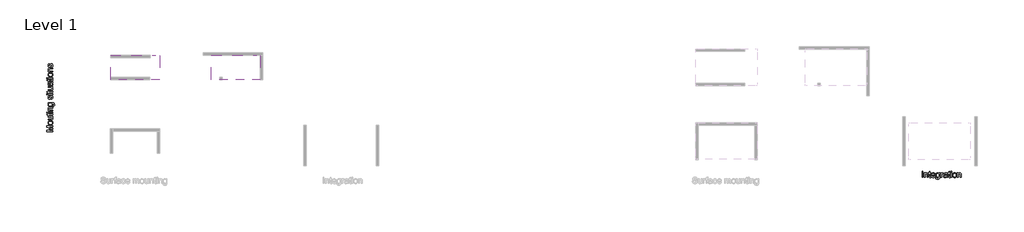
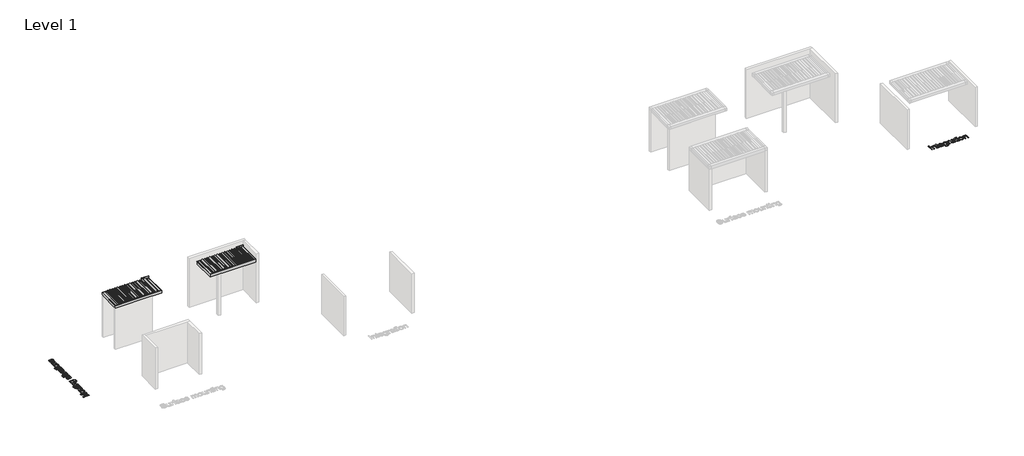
# One storey, part 6 of 12: 4 proxies.
"""IFC4 building model written with IfcOpenShell, lengths in millimetres."""

from ifc_helpers import new_model, si_unit, origin, origin_with_axes, place, context, project, spatial, polyline, outline, extrude, transform, mapped, element, save
from components import generic_models_456f33a1

model = new_model("IFC4")

# Units and contexts
model_context = context("Model", 3, world=origin())
ifc_project = project(units=[si_unit("LENGTHUNIT", "METRE", prefix="MILLI")], contexts=[model_context])

# Site, building, storey
site = spatial("IfcSite", under=ifc_project)
building = spatial("IfcBuilding", under=site)
storey = spatial("IfcBuildingStorey", under=building, Name="Level 1", Elevation=0.0)

# Proxies
placement = place(None, origin())
generic_models_shape = generic_models_456f33a1(model_context)
element("IfcBuildingElementProxy", 1, Name="Renson_Aero_Patio covers : Aero - Single", ObjectType="Renson_Aero_Patio covers : Aero - Single", at=placement, inside=storey, context=model_context, shape_type="MappedRepresentation", body=[
    mapped(generic_models_shape, transform((-9286.834943, 6301.5921629, 4000.0), x_axis=(1.0, 0.0, 0.0), y_axis=(0.0, 1.0, 0.0), z_axis=(0.0, 0.0, 1.0))),
])
element("IfcBuildingElementProxy", 2, Name="Renson_Aero_Patio covers : Aero - Single", ObjectType="Renson_Aero_Patio covers : Aero - Single", at=placement, inside=storey, context=model_context, shape_type="MappedRepresentation", body=[
    mapped(generic_models_shape, transform((-1076.4919488, 6301.5921629, 4000.0), x_axis=(1.0, 0.0, 0.0), y_axis=(0.0, 1.0, 0.0), z_axis=(0.0, 0.0, 1.0))),
])
element("IfcBuildingElementProxy", 3, Name="500mm Arial", ObjectType="500mm Arial", at=placement, inside=storey, context=model_context, shape_type="SweptSolid", body=[
    extrude(outline(polyline([(-15994.8554904, 1071.6143377), (-16497.1370411, 1071.6143377), (-16497.1370411, 1179.649017), (-16143.1119345, 1282.4107209), (-16069.1676534, 1303.13474), (-16149.243301, 1325.5755417), (-16497.1370411, 1426.6204631), (-16497.1370411, 1534.6551423), (-15994.8554904, 1534.6551423), (-15994.8554904, 1471.8699485), (-16434.3518473, 1471.8699485), (-15994.8554904, 1345.6864241), (-15994.8554904, 1260.5830559), (-16434.3518473, 1134.3995315), (-15994.8554904, 1134.3995315), (-15994.8554904, 1071.6143377)])), origin_with_axes(), (0.0, 0.0, 1.0), 5.0),
    extrude(outline(polyline([(-16179.2869973, 1620.9847838), (-16227.0580072, 1624.3800281), (-16268.2224696, 1634.5657608), (-16302.7803846, 1651.5419821), (-16330.731752, 1675.3086918), (-16348.5970214, 1699.2363499), (-16361.3579281, 1725.6472115), (-16369.0144721, 1754.5412765), (-16371.5666535, 1785.918545), (-16368.458817, 1820.5569341), (-16359.1353077, 1851.8767211), (-16343.5961255, 1879.8779058), (-16321.8412704, 1904.5604885), (-16294.6065065, 1924.7058598), (-16262.6275976, 1939.0954107), (-16225.9045439, 1947.7291413), (-16184.4373452, 1950.6070515), (-16121.0083579, 1945.5180172), (-16094.9730425, 1939.1567244), (-16072.723846, 1930.2509144), (-16053.5058439, 1918.9117184), (-16036.5641116, 1905.2502672), (-16021.8986491, 1889.2665609), (-16009.5094565, 1870.9605996), (-15992.63287, 1830.232997), (-15987.0073412, 1785.918545), (-15990.1036813, 1750.7743182), (-15999.3927017, 1719.1632913), (-16014.8744023, 1691.0854644), (-16036.5487832, 1666.5408376), (-16064.0479623, 1646.6100641), (-16097.0040577, 1632.3737973), (-16135.4170694, 1623.8320372), (-16179.2869973, 1620.9847838)]), holes=[polyline([(-16179.4096246, 1683.7699777), (-16148.9558932, 1685.586395), (-16122.5871848, 1691.0356471), (-16100.3034994, 1700.1177338), (-16082.1048369, 1712.8326553), (-16067.9682048, 1728.2990275), (-16057.8706105, 1745.6354665), (-16051.8120539, 1764.8419724), (-16049.792535, 1785.918545), (-16051.8235502, 1806.8878187), (-16057.9165957, 1826.0176825), (-16068.0716716, 1843.3081363), (-16082.2887779, 1858.7591801), (-16100.6675493, 1871.4741015), (-16123.3076204, 1880.5561883), (-16150.2089913, 1886.0054403), (-16181.371662, 1887.8218577), (-16210.8597031, 1885.993944), (-16236.5386328, 1880.510203), (-16258.408451, 1871.3706347), (-16276.4691577, 1858.5752391), (-16290.6057898, 1843.0667137), (-16300.7033841, 1825.7877562), (-16306.7619407, 1806.7383667), (-16308.7814596, 1785.918545), (-16306.769605, 1764.8419724), (-16300.734041, 1745.6354665), (-16290.6747677, 1728.2990275), (-16276.591785, 1712.8326553), (-16258.446772, 1700.1177338), (-16236.2014076, 1691.0356471), (-16209.8556918, 1685.586395), (-16179.4096246, 1683.7699777)])]), origin_with_axes(), (0.0, 0.0, 1.0), 5.0),
    extrude(outline(polyline([(-15994.8554904, 2256.6848715), (-16058.2538209, 2256.6848715), (-16027.083486, 2233.9681583), (-16004.8189611, 2207.5113115), (-15991.4602461, 2177.314331), (-15987.0073412, 2143.377217), (-15990.1343381, 2112.7970261), (-15999.515329, 2084.3321568), (-16013.6174722, 2060.4504839), (-16030.9079259, 2043.6198826), (-16051.9078565, 2032.2921829), (-16077.13843, 2024.9192145), (-16135.5090399, 2021.2403946), (-16363.7185042, 2021.2403946), (-16363.7185042, 2084.0255884), (-16165.0622268, 2084.0255884), (-16101.0507597, 2087.8270357), (-16079.6982755, 2096.9781003), (-16063.4654825, 2112.6590704), (-16053.2107719, 2133.8276135), (-16049.792535, 2159.4413974), (-16053.287414, 2186.5267093), (-16063.7720508, 2211.8645818), (-16080.2807554, 2232.7572134), (-16101.8478373, 2246.506803), (-16131.3856959, 2254.1403544), (-16171.8067301, 2256.6848715), (-16363.7185042, 2256.6848715), (-16363.7185042, 2319.4700653), (-15994.8554904, 2319.4700653), (-15994.8554904, 2256.6848715)])), origin_with_axes(), (0.0, 0.0, 1.0), 5.0),
    extrude(outline(polyline([(-16047.217361, 2539.2182438), (-15993.0160804, 2547.066393), (-15987.0073412, 2500.100125), (-15989.613172, 2469.9644582), (-15997.4306644, 2447.4929997), (-16009.4787997, 2431.6127602), (-16024.7765593, 2421.2507507), (-16051.0494652, 2415.5485798), (-16096.0230391, 2413.6478561), (-16300.9333104, 2413.6478561), (-16300.9333104, 2366.5589607), (-16363.7185042, 2366.5589607), (-16363.7185042, 2413.6478561), (-16453.3590837, 2413.6478561), (-16490.2699106, 2476.43305), (-16363.7185042, 2476.43305), (-16363.7185042, 2539.2182438), (-16300.9333104, 2539.2182438), (-16300.9333104, 2476.43305), (-16097.862449, 2476.43305), (-16065.4888335, 2479.7439879), (-16054.023178, 2490.4738794), (-16049.792535, 2511.8723488), (-16047.217361, 2539.2182438)])), origin_with_axes(), (0.0, 0.0, 1.0), 5.0),
    extrude(outline(polyline([(-16434.3518473, 2602.0034376), (-16497.1370411, 2602.0034376), (-16497.1370411, 2664.7886315), (-16434.3518473, 2664.7886315), (-16434.3518473, 2602.0034376)])), origin_with_axes(), (0.0, 0.0, 1.0), 5.0),
    extrude(outline(polyline([(-15994.8554904, 2602.0034376), (-16363.7185042, 2602.0034376), (-16363.7185042, 2664.7886315), (-15994.8554904, 2664.7886315), (-15994.8554904, 2602.0034376)])), origin_with_axes(), (0.0, 0.0, 1.0), 5.0),
    extrude(outline(polyline([(-15994.8554904, 2758.9664222), (-16363.7185042, 2758.9664222), (-16363.7185042, 2821.7516161), (-16312.2150249, 2821.7516161), (-16338.1813624, 2843.5639527), (-16356.7287463, 2869.7602165), (-16367.8571767, 2900.3404073), (-16371.5666535, 2935.3045253), (-16368.5776122, 2966.2525981), (-16359.6104886, 2994.5948402), (-16345.784257, 3018.2312584), (-16328.2178917, 3035.0618596), (-16306.9573781, 3046.4815299), (-16282.0487013, 3053.885155), (-16221.3481721, 3057.196093), (-15994.8554904, 3057.196093), (-15994.8554904, 2994.4108992), (-16212.8868862, 2994.4108992), (-16245.3524723, 2992.602146), (-16268.4370675, 2987.1758866), (-16284.9764288, 2977.1664306), (-16297.8063134, 2961.6080879), (-16306.0376731, 2941.6658181), (-16308.7814596, 2918.5045808), (-16307.2409538, 2899.4398628), (-16302.6194362, 2881.7317097), (-16294.9169069, 2865.3801215), (-16284.1333659, 2850.3850981), (-16269.0425399, 2837.8579497), (-16248.4181556, 2828.9099866), (-16222.2602129, 2823.5412087), (-16190.5687118, 2821.7516161), (-15994.8554904, 2821.7516161), (-15994.8554904, 2758.9664222)])), origin_with_axes(), (0.0, 0.0, 1.0), 5.0),
    extrude(outline(polyline([(-15963.4628935, 3127.8294361), (-15955.6147442, 3190.6146299), (-15935.9943712, 3197.5430742), (-15922.5053647, 3210.970767), (-15912.0207278, 3237.3663001), (-15908.5258489, 3271.9165509), (-15912.4805803, 3308.766064), (-15924.3447747, 3336.1732727), (-15943.3520111, 3355.1805091), (-15968.7358687, 3366.8301056), (-15995.7445386, 3370.2330141), (-16041.9443858, 3371.1220622), (-16021.342994, 3350.2294306), (-16006.6277142, 3326.9149091), (-15997.7985464, 3301.1784979), (-15994.8554904, 3273.0201968), (-15998.2813915, 3238.5964056), (-16008.5590947, 3208.2882941), (-16025.6886001, 3182.0958625), (-16049.6699077, 3160.0191107), (-16078.4413454, 3142.5025627), (-16109.9412412, 3129.9907428), (-16144.1695952, 3122.4836508), (-16181.1264073, 3119.9812868), (-16231.8174805, 3124.4725129), (-16278.431195, 3137.9461909), (-16317.9325242, 3159.9271402), (-16333.8779095, 3173.9296486), (-16347.2864418, 3189.9401796), (-16357.9090344, 3207.7019822), (-16365.4966005, 3226.9583054), (-16370.0491402, 3247.7091492), (-16371.5666535, 3269.9545136), (-16368.1330882, 3299.3160953), (-16357.8323923, 3325.9645473), (-16340.6645659, 3349.8998696), (-16316.6296088, 3371.1220622), (-16363.7185042, 3371.1220622), (-16363.7185042, 3433.9072561), (-16045.2553237, 3433.9072561), (-15971.7249099, 3429.6152995), (-15944.3751829, 3424.2503537), (-15923.3024423, 3416.7394296), (-15891.1894098, 3394.559211), (-15866.5873014, 3362.354208), (-15857.4668936, 3342.6686892), (-15850.9523166, 3320.8295278), (-15845.740655, 3270.6902775), (-15847.5762329, 3239.9299778), (-15853.0829665, 3212.2736824), (-15862.2608559, 3187.7213913), (-15875.109901, 3166.2731046), (-15891.6454302, 3148.9481619), (-15911.8827721, 3136.7659029), (-15935.8219265, 3129.7263276), (-15963.4628935, 3127.8294361)]), holes=[polyline([(-16185.4183639, 3182.7664807), (-16154.3744885, 3184.4411102), (-16127.8295032, 3189.4649987), (-16105.7834083, 3197.8381462), (-16088.2362035, 3209.5605527), (-16074.8506638, 3223.8121479), (-16065.2895641, 3239.7728615), (-16059.5529042, 3257.4426936), (-16057.6406842, 3276.8216441), (-16059.5414079, 3296.0089894), (-16065.2435788, 3313.5945152), (-16074.747197, 3329.5782215), (-16088.0522625, 3343.9601082), (-16105.4270226, 3355.8434631), (-16127.1397245, 3364.3315737), (-16153.1903683, 3369.4244401), (-16183.5789539, 3371.1220622), (-16212.6991131, 3369.3746227), (-16238.0101608, 3364.1323043), (-16259.512097, 3355.3951069), (-16277.2049217, 3343.1630306), (-16291.019657, 3328.4707434), (-16300.8873251, 3312.3529135), (-16306.807926, 3294.8095408), (-16308.7814596, 3275.8406255), (-16306.8385828, 3257.1897747), (-16301.0099525, 3239.9874594), (-16291.2955685, 3224.2336793), (-16277.695431, 3209.9284347), (-16260.2708536, 3198.0450798), (-16239.0831499, 3189.5569692), (-16214.13232, 3184.4641028), (-16185.4183639, 3182.7664807)])]), origin_with_axes(), (0.0, 0.0, 1.0), 5.0),
    extrude(outline(polyline([(-16104.7295796, 3700.7443299), (-16112.5777289, 3763.5295237), (-16085.7223432, 3773.4316808), (-16065.9793428, 3792.5922014), (-16053.839237, 3821.1337128), (-16049.792535, 3859.1788425), (-16053.5020118, 3896.7641197), (-16064.6304421, 3923.1903097), (-16080.7559363, 3938.8252944), (-16099.4566044, 3944.036956), (-16115.4594711, 3938.7946376), (-16127.6608907, 3923.0676823), (-16145.5644811, 3858.4430785), (-16162.1344993, 3801.1454578), (-16176.2826277, 3763.8974057), (-16191.7183431, 3739.9697476), (-16212.1511222, 3722.6333086), (-16236.2780497, 3712.1026865), (-16262.7962102, 3708.5924791), (-16287.1224071, 3711.4129078), (-16309.5785373, 3719.8741937), (-16329.2755524, 3733.209916), (-16345.3244045, 3750.6536539), (-16355.4258309, 3767.9900929), (-16363.9024452, 3790.5688504), (-16369.6506014, 3816.6731436), (-16371.5666535, 3844.58619), (-16368.4856417, 3885.4517483), (-16359.2426066, 3920.9830177), (-16344.7419246, 3949.555186), (-16325.8879724, 3969.543441), (-16301.285864, 3982.7871929), (-16269.5407135, 3991.1258514), (-16261.6925642, 3928.3406576), (-16281.4508931, 3920.4158663), (-16296.3347854, 3904.7348962), (-16305.6697911, 3881.1444633), (-16308.7814596, 3849.4912833), (-16305.8077468, 3813.4388478), (-16296.8866084, 3789.4038907), (-16284.0107386, 3775.8842274), (-16269.1728315, 3771.377673), (-16259.5159291, 3773.2477398), (-16250.901359, 3778.8579402), (-16243.206494, 3788.4535289), (-16237.0444706, 3802.2797606), (-16223.6780914, 3856.3584139), (-16194.1249045, 3948.5128537), (-16179.9921045, 3972.854379), (-16160.6476429, 3991.3097924), (-16136.030206, 4002.9440605), (-16106.0784803, 4006.8221499), (-16075.115079, 4002.2696102), (-16045.9910877, 3988.6119911), (-16020.9904405, 3966.3704588), (-16002.3970713, 3936.0661795), (-15990.8547737, 3899.461921), (-15987.0073412, 3858.3204512), (-15988.8620796, 3824.5289571), (-15994.4262947, 3795.0140912), (-16003.6999867, 3769.7758535), (-16016.6831554, 3748.8142439), (-16033.3144873, 3731.6924027), (-16053.5326686, 3717.97347), (-16077.3376994, 3707.6574457), (-16104.7295796, 3700.7443299)])), origin_with_axes(), (0.0, 0.0, 1.0), 5.0),
    extrude(outline(polyline([(-16434.3518473, 4077.455493), (-16497.1370411, 4077.455493), (-16497.1370411, 4140.2406868), (-16434.3518473, 4140.2406868), (-16434.3518473, 4077.455493)])), origin_with_axes(), (0.0, 0.0, 1.0), 5.0),
    extrude(outline(polyline([(-15994.8554904, 4077.455493), (-16363.7185042, 4077.455493), (-16363.7185042, 4140.2406868), (-15994.8554904, 4140.2406868), (-15994.8554904, 4077.455493)])), origin_with_axes(), (0.0, 0.0, 1.0), 5.0),
    extrude(outline(polyline([(-16047.217361, 4367.8370145), (-15993.0160804, 4375.6851637), (-15987.0073412, 4328.7188957), (-15989.613172, 4298.5832289), (-15997.4306644, 4276.1117704), (-16009.4787997, 4260.2315309), (-16024.7765593, 4249.8695214), (-16051.0494652, 4244.1673504), (-16096.0230391, 4242.2666268), (-16300.9333104, 4242.2666268), (-16300.9333104, 4195.1777314), (-16363.7185042, 4195.1777314), (-16363.7185042, 4242.2666268), (-16453.3590837, 4242.2666268), (-16490.2699106, 4305.0518206), (-16363.7185042, 4305.0518206), (-16363.7185042, 4367.8370145), (-16300.9333104, 4367.8370145), (-16300.9333104, 4305.0518206), (-16097.862449, 4305.0518206), (-16065.4888335, 4308.3627586), (-16054.023178, 4319.0926501), (-16049.792535, 4340.4911195), (-16047.217361, 4367.8370145)])), origin_with_axes(), (0.0, 0.0, 1.0), 5.0),
    extrude(outline(polyline([(-15994.8554904, 4666.0666852), (-16058.2538209, 4666.0666852), (-16027.083486, 4643.349972), (-16004.8189611, 4616.8931252), (-15991.4602461, 4586.6961448), (-15987.0073412, 4552.7590307), (-15990.1343381, 4522.1788399), (-15999.515329, 4493.7139705), (-16013.6174722, 4469.8322977), (-16030.9079259, 4453.0016964), (-16051.9078565, 4441.6739966), (-16077.13843, 4434.3010283), (-16135.5090399, 4430.6222083), (-16363.7185042, 4430.6222083), (-16363.7185042, 4493.4074022), (-16165.0622268, 4493.4074022), (-16101.0507597, 4497.2088495), (-16079.6982755, 4506.3599141), (-16063.4654825, 4522.0408841), (-16053.2107719, 4543.2094273), (-16049.792535, 4568.8232112), (-16053.287414, 4595.9085231), (-16063.7720508, 4621.2463955), (-16080.2807554, 4642.1390271), (-16101.8478373, 4655.8886167), (-16131.3856959, 4663.5221681), (-16171.8067301, 4666.0666852), (-16363.7185042, 4666.0666852), (-16363.7185042, 4728.8518791), (-15994.8554904, 4728.8518791), (-15994.8554904, 4666.0666852)])), origin_with_axes(), (0.0, 0.0, 1.0), 5.0),
    extrude(outline(polyline([(-16041.9443858, 5050.6259975), (-16016.2233029, 5020.6282865), (-15999.3927017, 4989.7415273), (-15990.1036813, 4957.2606128), (-15987.0073412, 4922.4804359), (-15988.8697438, 4894.5252364), (-15994.4569516, 4870.0112663), (-16003.7689646, 4848.9385258), (-16016.8057828, 4831.3070147), (-16032.7396717, 4817.3849805), (-16050.7428968, 4807.4406703), (-16070.8154582, 4801.4740842), (-16092.9573558, 4799.4852222), (-16118.9850069, 4802.4895918), (-16142.6214251, 4811.5027007), (-16162.8549349, 4825.4055744), (-16178.6738607, 4843.0792386), (-16190.6300255, 4863.8492429), (-16199.2752524, 4887.041137), (-16208.7175569, 4941.365045), (-16218.6503708, 5005.5604531), (-16230.2999673, 5050.2581155), (-16244.2794831, 5050.6259975), (-16272.2998284, 5046.3033841), (-16290.6326145, 5033.3355438), (-16298.5727342, 5020.2604045), (-16304.2442483, 5004.3341798), (-16308.7814596, 4963.928474), (-16305.7617616, 4926.5271378), (-16296.7026674, 4900.4075162), (-16279.9487082, 4882.5958962), (-16253.844415, 4870.1185652), (-16261.6925642, 4807.3333714), (-16296.0282171, 4818.2318755), (-16323.0062301, 4834.4953254), (-16343.6382787, 4857.6412342), (-16358.9360383, 4889.1871153), (-16368.4089997, 4927.7687396), (-16371.5666535, 4972.0218779), (-16368.7768817, 5014.4662631), (-16360.4075663, 5048.1121372), (-16347.8229364, 5073.4806665), (-16332.387221, 5091.093017), (-16313.3033425, 5102.7732704), (-16289.7742232, 5110.3455081), (-16234.8371786, 5113.4111914), (-16156.7235683, 5113.4111914), (-16047.6465567, 5116.599502), (-16020.6838721, 5121.3206543), (-15994.8554904, 5129.1074898), (-15994.8554904, 5066.322296), (-16016.6831554, 5056.2668548), (-16041.9443858, 5050.6259975)]), holes=[polyline([(-16167.5147735, 5050.6259975), (-16157.0607934, 5008.4421954), (-16148.2622824, 4949.3358215), (-16138.0842139, 4895.3184819), (-16131.1251128, 4881.262324), (-16121.5295241, 4870.8543292), (-16110.0332117, 4864.4163943), (-16097.3719397, 4862.270416), (-16078.7019285, 4866.945583), (-16063.4041688, 4880.9710841), (-16053.1954435, 4904.0403509), (-16049.792535, 4935.846815), (-16053.547997, 4969.5693313), (-16064.8143831, 4999.3677729), (-16081.4150582, 5023.5253572), (-16101.173387, 5040.3253017), (-16121.5295241, 5047.7749121), (-16149.7338104, 5050.2581155), (-16167.5147735, 5050.6259975)])]), origin_with_axes(), (0.0, 0.0, 1.0), 5.0),
    extrude(outline(polyline([(-16047.217361, 5333.1593698), (-15993.0160804, 5341.0075191), (-15987.0073412, 5294.041251), (-15989.613172, 5263.9055842), (-15997.4306644, 5241.4341257), (-16009.4787997, 5225.5538862), (-16024.7765593, 5215.1918767), (-16051.0494652, 5209.4897058), (-16096.0230391, 5207.5889821), (-16300.9333104, 5207.5889821), (-16300.9333104, 5160.5000868), (-16363.7185042, 5160.5000868), (-16363.7185042, 5207.5889821), (-16453.3590837, 5207.5889821), (-16490.2699106, 5270.374176), (-16363.7185042, 5270.374176), (-16363.7185042, 5333.1593698), (-16300.9333104, 5333.1593698), (-16300.9333104, 5270.374176), (-16097.862449, 5270.374176), (-16065.4888335, 5273.6851139), (-16054.023178, 5284.4150055), (-16049.792535, 5305.8134749), (-16047.217361, 5333.1593698)])), origin_with_axes(), (0.0, 0.0, 1.0), 5.0),
    extrude(outline(polyline([(-15994.8554904, 5395.9445637), (-16363.7185042, 5395.9445637), (-16363.7185042, 5458.7297575), (-15994.8554904, 5458.7297575), (-15994.8554904, 5395.9445637)])), origin_with_axes(), (0.0, 0.0, 1.0), 5.0),
    extrude(outline(polyline([(-16434.3518473, 5395.9445637), (-16497.1370411, 5395.9445637), (-16497.1370411, 5458.7297575), (-16434.3518473, 5458.7297575), (-16434.3518473, 5395.9445637)])), origin_with_axes(), (0.0, 0.0, 1.0), 5.0),
    extrude(outline(polyline([(-16179.2869973, 5537.2112498), (-16227.0580072, 5540.6064941), (-16268.2224696, 5550.7922268), (-16302.7803846, 5567.768448), (-16330.731752, 5591.5351578), (-16348.5970214, 5615.4628159), (-16361.3579281, 5641.8736775), (-16369.0144721, 5670.7677425), (-16371.5666535, 5702.145011), (-16368.458817, 5736.7834001), (-16359.1353077, 5768.103187), (-16343.5961255, 5796.1043718), (-16321.8412704, 5820.7869544), (-16294.6065065, 5840.9323258), (-16262.6275976, 5855.3218767), (-16225.9045439, 5863.9556073), (-16184.4373452, 5866.8335175), (-16121.0083579, 5861.7444832), (-16094.9730425, 5855.3831904), (-16072.723846, 5846.4773804), (-16053.5058439, 5835.1381844), (-16036.5641116, 5821.4767332), (-16021.8986491, 5805.4930269), (-16009.5094565, 5787.1870655), (-15992.63287, 5746.459463), (-15987.0073412, 5702.145011), (-15990.1036813, 5667.0007841), (-15999.3927017, 5635.3897573), (-16014.8744023, 5607.3119304), (-16036.5487832, 5582.7673036), (-16064.0479623, 5562.8365301), (-16097.0040577, 5548.6002633), (-16135.4170694, 5540.0585032), (-16179.2869973, 5537.2112498)]), holes=[polyline([(-16179.4096246, 5599.9964437), (-16148.9558932, 5601.812861), (-16122.5871848, 5607.2621131), (-16100.3034994, 5616.3441998), (-16082.1048369, 5629.0591213), (-16067.9682048, 5644.5254935), (-16057.8706105, 5661.8619325), (-16051.8120539, 5681.0684384), (-16049.792535, 5702.145011), (-16051.8235502, 5723.1142847), (-16057.9165957, 5742.2441485), (-16068.0716716, 5759.5346022), (-16082.2887779, 5774.985646), (-16100.6675493, 5787.7005675), (-16123.3076204, 5796.7826543), (-16150.2089913, 5802.2319063), (-16181.371662, 5804.0483237), (-16210.8597031, 5802.22041), (-16236.5386328, 5796.736669), (-16258.408451, 5787.5971007), (-16276.4691577, 5774.801705), (-16290.6057898, 5759.2931797), (-16300.7033841, 5742.0142222), (-16306.7619407, 5722.9648327), (-16308.7814596, 5702.145011), (-16306.769605, 5681.0684384), (-16300.734041, 5661.8619325), (-16290.6747677, 5644.5254935), (-16276.591785, 5629.0591213), (-16258.446772, 5616.3441998), (-16236.2014076, 5607.2621131), (-16209.8556918, 5601.812861), (-16179.4096246, 5599.9964437)])]), origin_with_axes(), (0.0, 0.0, 1.0), 5.0),
    extrude(outline(polyline([(-15994.8554904, 5937.4668606), (-16363.7185042, 5937.4668606), (-16363.7185042, 6000.2520544), (-16312.2150249, 6000.2520544), (-16338.1813624, 6022.0643911), (-16356.7287463, 6048.2606548), (-16367.8571767, 6078.8408456), (-16371.5666535, 6113.8049636), (-16368.5776122, 6144.7530364), (-16359.6104886, 6173.0952785), (-16345.784257, 6196.7316967), (-16328.2178917, 6213.562298), (-16306.9573781, 6224.9819682), (-16282.0487013, 6232.3855934), (-16221.3481721, 6235.6965313), (-15994.8554904, 6235.6965313), (-15994.8554904, 6172.9113375), (-16212.8868862, 6172.9113375), (-16245.3524723, 6171.1025843), (-16268.4370675, 6165.6763249), (-16284.9764288, 6155.666869), (-16297.8063134, 6140.1085263), (-16306.0376731, 6120.1662564), (-16308.7814596, 6097.0050192), (-16307.2409538, 6077.9403012), (-16302.6194362, 6060.2321481), (-16294.9169069, 6043.8805598), (-16284.1333659, 6028.8855364), (-16269.0425399, 6016.358388), (-16248.4181556, 6007.4104249), (-16222.2602129, 6002.041647), (-16190.5687118, 6000.2520544), (-15994.8554904, 6000.2520544), (-15994.8554904, 5937.4668606)])), origin_with_axes(), (0.0, 0.0, 1.0), 5.0),
    extrude(outline(polyline([(-16104.7295796, 6298.4817252), (-16112.5777289, 6361.266919), (-16085.7223432, 6371.1690761), (-16065.9793428, 6390.3295966), (-16053.839237, 6418.8711081), (-16049.792535, 6456.9162378), (-16053.5020118, 6494.5015149), (-16064.6304421, 6520.9277049), (-16080.7559363, 6536.5626897), (-16099.4566044, 6541.7743513), (-16115.4594711, 6536.5320329), (-16127.6608907, 6520.8050776), (-16145.5644811, 6456.1804738), (-16162.1344993, 6398.882853), (-16176.2826277, 6361.634801), (-16191.7183431, 6337.7071429), (-16212.1511222, 6320.3707039), (-16236.2780497, 6309.8400818), (-16262.7962102, 6306.3298744), (-16287.1224071, 6309.150303), (-16309.5785373, 6317.6115889), (-16329.2755524, 6330.9473113), (-16345.3244045, 6348.3910492), (-16355.4258309, 6365.7274882), (-16363.9024452, 6388.3062457), (-16369.6506014, 6414.4105389), (-16371.5666535, 6442.3235853), (-16368.4856417, 6483.1891436), (-16359.2426066, 6518.720413), (-16344.7419246, 6547.2925812), (-16325.8879724, 6567.2808363), (-16301.285864, 6580.5245881), (-16269.5407135, 6588.8632467), (-16261.6925642, 6526.0780529), (-16281.4508931, 6518.1532615), (-16296.3347854, 6502.4722915), (-16305.6697911, 6478.8818586), (-16308.7814596, 6447.2286786), (-16305.8077468, 6411.176243), (-16296.8866084, 6387.141286), (-16284.0107386, 6373.6216227), (-16269.1728315, 6369.1150683), (-16259.5159291, 6370.9851351), (-16250.901359, 6376.5953355), (-16243.206494, 6386.1909242), (-16237.0444706, 6400.0171558), (-16223.6780914, 6454.0958091), (-16194.1249045, 6546.2502489), (-16179.9921045, 6570.5917743), (-16160.6476429, 6589.0471877), (-16136.030206, 6600.6814558), (-16106.0784803, 6604.5595452), (-16075.115079, 6600.0070055), (-16045.9910877, 6586.3493864), (-16020.9904405, 6564.1078541), (-16002.3970713, 6533.8035748), (-15990.8547737, 6497.1993162), (-15987.0073412, 6456.0578464), (-15988.8620796, 6422.2663523), (-15994.4262947, 6392.7514864), (-16003.6999867, 6367.5132487), (-16016.6831554, 6346.5516392), (-16033.3144873, 6329.429798), (-16053.5326686, 6315.7108653), (-16077.3376994, 6305.394841), (-16104.7295796, 6298.4817252)])), origin_with_axes(), (0.0, 0.0, 1.0), 5.0),
])
element("IfcBuildingElementProxy", 4, Name="500mm Arial", ObjectType="500mm Arial", at=placement, inside=storey, context=model_context, shape_type="SweptSolid", body=[
    extrude(outline(polyline([(54817.8536281, -2664.1927147), (54817.8536281, -2161.911164), (54880.638822, -2161.911164), (54880.638822, -2664.1927147), (54817.8536281, -2664.1927147)])), origin_with_axes(), (0.0, 0.0, 1.0), 5.0),
    extrude(outline(polyline([(54998.3610604, -2664.1927147), (54998.3610604, -2295.3297009), (55061.1462543, -2295.3297009), (55061.1462543, -2346.8331802), (55082.9585909, -2320.8668427), (55109.1548546, -2302.3194588), (55139.7350455, -2291.1910284), (55174.6991634, -2287.4815516), (55205.6472363, -2290.4705929), (55233.9894783, -2299.4377165), (55257.6258965, -2313.2639481), (55274.4564978, -2330.8303134), (55285.8761681, -2352.0908271), (55293.2797932, -2376.9995038), (55296.5907312, -2437.700033), (55296.5907312, -2664.1927147), (55233.8055373, -2664.1927147), (55233.8055373, -2446.1613189), (55231.9967842, -2413.6957328), (55226.5705248, -2390.6111376), (55216.5610688, -2374.0717763), (55201.0027261, -2361.2418917), (55181.0604563, -2353.010532), (55157.899219, -2350.2667455), (55138.834501, -2351.8072513), (55121.1263479, -2356.4287689), (55104.7747596, -2364.1312982), (55089.7797362, -2374.9148392), (55077.2525879, -2390.0056652), (55068.3046248, -2410.6300495), (55062.9358469, -2436.7879922), (55061.1462543, -2468.4794933), (55061.1462543, -2664.1927147), (54998.3610604, -2664.1927147)])), origin_with_axes(), (0.0, 0.0, 1.0), 5.0),
    extrude(outline(polyline([(55516.3389096, -2611.8308441), (55524.1870589, -2666.0321247), (55477.2207908, -2672.0408639), (55447.085124, -2669.4350331), (55424.6136655, -2661.6175407), (55408.733426, -2649.5694054), (55398.3714165, -2634.2716458), (55392.6692456, -2607.9987399), (55390.7685219, -2563.025166), (55390.7685219, -2358.1148947), (55343.6796266, -2358.1148947), (55343.6796266, -2295.3297009), (55390.7685219, -2295.3297009), (55390.7685219, -2205.6891214), (55453.5537158, -2168.7782945), (55453.5537158, -2295.3297009), (55516.3389096, -2295.3297009), (55516.3389096, -2358.1148947), (55453.5537158, -2358.1148947), (55453.5537158, -2561.1857561), (55456.8646537, -2593.5593716), (55467.5945453, -2605.0250272), (55488.9930147, -2609.2556701), (55516.3389096, -2611.8308441)])), origin_with_axes(), (0.0, 0.0, 1.0), 5.0),
    extrude(outline(polyline([(55837.3772641, -2554.3186255), (55898.9361846, -2562.1667747), (55889.4977122, -2586.8225326), (55876.755966, -2608.5505629), (55860.7109461, -2627.3508657), (55841.3626524, -2643.223441), (55818.9103544, -2655.8310635), (55793.5533214, -2664.8365082), (55765.2915536, -2670.239775), (55734.1250508, -2672.0408639), (55695.1678803, -2668.9330275), (55660.4566812, -2659.6095182), (55629.9914535, -2644.070336), (55603.7721972, -2622.3154809), (55582.6879603, -2594.9504254), (55567.6277911, -2562.580642), (55558.5916896, -2525.2061305), (55555.5796558, -2482.8268911), (55558.6223465, -2439.0106126), (55567.7504185, -2400.3906673), (55582.9638718, -2366.9670552), (55604.2627065, -2338.7397763), (55630.412985, -2316.314303), (55660.1807697, -2300.2961078), (55693.5660608, -2290.6851907), (55730.5688582, -2287.4815516), (55766.3798711, -2290.6775265), (55798.764983, -2300.265451), (55827.7241938, -2316.2453251), (55853.2575035, -2338.617149), (55874.1003178, -2366.7831142), (55888.9880423, -2400.1454127), (55897.920677, -2438.7040443), (55900.8982219, -2482.4590091), (55900.5303399, -2499.3815809), (55618.3648496, -2499.3815809), (55622.0015164, -2524.4358776), (55629.2326969, -2546.3785058), (55640.058391, -2565.2094654), (55654.4785988, -2580.9287565), (55671.6962426, -2593.3217812), (55690.9142448, -2602.1739417), (55712.1326053, -2607.485238), (55735.3513241, -2609.2556701), (55768.767272, -2605.975389), (55796.9102446, -2596.1345456), (55819.780242, -2579.1200033), (55837.3772641, -2554.3186255)]), holes=[polyline([(55618.3648496, -2436.596387), (55838.1130281, -2436.596387), (55829.6210854, -2403.4256938), (55812.9744251, -2379.6973051), (55795.8525839, -2366.8214353), (55776.3701666, -2357.6243854), (55754.5271731, -2352.1061555), (55730.3236035, -2350.2667455), (55688.0018456, -2356.137529), (55669.5885854, -2363.4760084), (55653.0070708, -2373.7498795), (55639.0927008, -2386.4839615), (55628.6808739, -2401.2030734), (55621.7715902, -2417.9072153), (55618.3648496, -2436.596387)])]), origin_with_axes(), (0.0, 0.0, 1.0), 5.0),
    extrude(outline(polyline([(55947.9871173, -2695.5853116), (56010.7723111, -2703.4334609), (56017.7007554, -2723.0538339), (56031.1284482, -2736.5428404), (56057.5239814, -2747.0274773), (56092.0742321, -2750.5223562), (56128.9237453, -2746.5676248), (56156.3309539, -2734.7034305), (56175.3381903, -2715.696194), (56186.9877868, -2690.3123364), (56190.3906953, -2663.3036666), (56191.2797434, -2617.1038193), (56170.3871118, -2637.7052111), (56147.0725904, -2652.4204909), (56121.3361791, -2661.2496587), (56093.1778781, -2664.1927147), (56058.7540868, -2660.7668136), (56028.4459753, -2650.4891104), (56002.2535437, -2633.359605), (55980.1767919, -2609.3782974), (55962.660244, -2580.6068597), (55950.148424, -2549.1069639), (55942.6413321, -2514.8786099), (55940.1389681, -2477.9217978), (55944.6301941, -2427.2307246), (55958.1038722, -2380.6170101), (55980.0848214, -2341.1156809), (55994.0873298, -2325.1702956), (56010.0978608, -2311.7617633), (56027.8596634, -2301.1391707), (56047.1159866, -2293.5516046), (56067.8668304, -2288.9990649), (56090.1121948, -2287.4815516), (56119.4737765, -2290.9151169), (56146.1222285, -2301.2158128), (56170.0575509, -2318.3836392), (56191.2797434, -2342.4185963), (56191.2797434, -2295.3297009), (56254.0649373, -2295.3297009), (56254.0649373, -2613.7928814), (56249.7729807, -2687.3232952), (56244.4080349, -2714.6730222), (56236.8971109, -2735.7457628), (56214.7168922, -2767.8587953), (56182.5118892, -2792.4609037), (56162.8263704, -2801.5813115), (56140.987209, -2808.0958885), (56090.8479588, -2813.3075501), (56060.087659, -2811.4719722), (56032.4313636, -2805.9652386), (56007.8790725, -2796.7873492), (55986.4307858, -2783.9383041), (55969.1058431, -2767.4027749), (55956.9235841, -2747.165433), (55949.8840088, -2723.2262786), (55947.9871173, -2695.5853116)]), holes=[polyline([(56002.9241619, -2473.6298412), (56004.5987914, -2504.6737167), (56009.6226799, -2531.2187019), (56017.9958274, -2553.2647969), (56029.7182339, -2570.8120016), (56043.9698291, -2584.1975413), (56059.9305428, -2593.7586411), (56077.6003748, -2599.4953009), (56096.9793254, -2601.4075209), (56116.1666707, -2599.5067972), (56133.7521965, -2593.8046263), (56149.7359027, -2584.3010081), (56164.1177895, -2570.9959426), (56176.0011443, -2553.6211825), (56184.489255, -2531.9084806), (56189.5821213, -2505.8578368), (56191.2797434, -2475.4692512), (56189.532304, -2446.349092), (56184.2899855, -2421.0380443), (56175.5527882, -2399.5361081), (56163.3207118, -2381.8432834), (56148.6284246, -2368.0285481), (56132.5105947, -2358.16088), (56114.9672221, -2352.2402791), (56095.9983067, -2350.2667455), (56077.347456, -2352.2096223), (56060.1451406, -2358.0382526), (56044.3913606, -2367.7526366), (56030.0861159, -2381.3527741), (56018.202761, -2398.7773515), (56009.7146504, -2419.9650552), (56004.621784, -2444.9158851), (56002.9241619, -2473.6298412)])]), origin_with_axes(), (0.0, 0.0, 1.0), 5.0),
    extrude(outline(polyline([(56348.2427281, -2664.1927147), (56348.2427281, -2295.3297009), (56403.1797727, -2295.3297009), (56403.1797727, -2349.8988635), (56423.4745961, -2318.2610119), (56442.1752642, -2299.6216575), (56460.9372459, -2290.5165781), (56481.4160103, -2287.4815516), (56512.6859799, -2292.3253313), (56544.4464588, -2306.8566701), (56523.4771851, -2363.1426153), (56501.4042654, -2353.485713), (56479.3313457, -2350.2667455), (56460.5846923, -2353.3630856), (56443.8307331, -2362.652106), (56430.2957414, -2377.4286995), (56421.2059904, -2396.9877589), (56413.572439, -2432.0591758), (56411.0279219, -2470.3189033), (56411.0279219, -2664.1927147), (56348.2427281, -2664.1927147)])), origin_with_axes(), (0.0, 0.0, 1.0), 5.0),
    extrude(outline(polyline([(56819.1316819, -2617.1038193), (56789.1339709, -2642.8249022), (56758.2472117, -2659.6555034), (56725.7662972, -2668.9445238), (56690.9861202, -2672.0408639), (56663.0309207, -2670.1784613), (56638.5169507, -2664.5912535), (56617.4442101, -2655.2792405), (56599.8126991, -2642.2424223), (56585.8906648, -2626.3085334), (56575.9463547, -2608.3053083), (56569.9797685, -2588.2327469), (56567.9909065, -2566.0908493), (56570.9952761, -2540.0631982), (56580.008385, -2516.42678), (56593.9112588, -2496.1932702), (56611.5849229, -2480.3743445), (56632.3549272, -2468.4181796), (56655.5468214, -2459.7729527), (56709.8707293, -2450.3306482), (56774.0661375, -2440.3978343), (56818.7637999, -2428.7482378), (56819.1316819, -2414.768722), (56814.8090684, -2386.7483767), (56801.8412281, -2368.4155906), (56788.7660889, -2360.4754709), (56772.8398642, -2354.8039568), (56732.4341584, -2350.2667455), (56695.0328222, -2353.2864435), (56668.9132005, -2362.3455377), (56651.1015806, -2379.0994969), (56638.6242496, -2405.2037901), (56575.8390557, -2397.3556409), (56586.7375598, -2363.019988), (56603.0010097, -2336.041975), (56626.1469186, -2315.4099265), (56657.6927997, -2300.1121668), (56696.2744239, -2290.6392054), (56740.5275622, -2287.4815516), (56782.9719474, -2290.2713234), (56816.6178216, -2298.6406388), (56841.9863508, -2311.2252688), (56859.5987014, -2326.6609841), (56871.2789547, -2345.7448626), (56878.8511924, -2369.2739819), (56881.9168757, -2424.2110265), (56881.9168757, -2502.3246368), (56885.1051864, -2611.4016484), (56889.8263386, -2638.364333), (56897.6131742, -2664.1927147), (56834.8279803, -2664.1927147), (56824.7725391, -2642.3650497), (56819.1316819, -2617.1038193)]), holes=[polyline([(56819.1316819, -2491.5334316), (56776.9478798, -2501.9874117), (56717.8415059, -2510.7859227), (56663.8241663, -2520.9639913), (56649.7680084, -2527.9230923), (56639.3600136, -2537.518681), (56632.9220787, -2549.0149934), (56630.7761004, -2561.6762654), (56635.4512674, -2580.3462766), (56649.4767684, -2595.6440363), (56672.5460352, -2605.8527616), (56704.3524994, -2609.2556701), (56738.0750156, -2605.5002081), (56767.8734572, -2594.233822), (56792.0310416, -2577.6331469), (56808.830986, -2557.8748181), (56816.2805964, -2537.518681), (56818.7637999, -2509.3143947), (56819.1316819, -2491.5334316)])]), origin_with_axes(), (0.0, 0.0, 1.0), 5.0),
    extrude(outline(polyline([(57101.6650542, -2611.8308441), (57109.5132034, -2666.0321247), (57062.5469354, -2672.0408639), (57032.4112686, -2669.4350331), (57009.93981, -2661.6175407), (56994.0595706, -2649.5694054), (56983.6975611, -2634.2716458), (56977.9953901, -2607.9987399), (56976.0946665, -2563.025166), (56976.0946665, -2358.1148947), (56929.0057711, -2358.1148947), (56929.0057711, -2295.3297009), (56976.0946665, -2295.3297009), (56976.0946665, -2205.6891214), (57038.8798603, -2168.7782945), (57038.8798603, -2295.3297009), (57101.6650542, -2295.3297009), (57101.6650542, -2358.1148947), (57038.8798603, -2358.1148947), (57038.8798603, -2561.1857561), (57042.1907983, -2593.5593716), (57052.9206898, -2605.0250272), (57074.3191592, -2609.2556701), (57101.6650542, -2611.8308441)])), origin_with_axes(), (0.0, 0.0, 1.0), 5.0),
    extrude(outline(polyline([(57164.450248, -2224.6963578), (57164.450248, -2161.911164), (57227.2354419, -2161.911164), (57227.2354419, -2224.6963578), (57164.450248, -2224.6963578)])), origin_with_axes(), (0.0, 0.0, 1.0), 5.0),
    extrude(outline(polyline([(57164.450248, -2664.1927147), (57164.450248, -2295.3297009), (57227.2354419, -2295.3297009), (57227.2354419, -2664.1927147), (57164.450248, -2664.1927147)])), origin_with_axes(), (0.0, 0.0, 1.0), 5.0),
    extrude(outline(polyline([(57305.7169342, -2479.7612078), (57309.1121784, -2431.9901979), (57319.2979112, -2390.8257355), (57336.2741324, -2356.2678205), (57360.0408421, -2328.3164531), (57383.9685002, -2310.4511837), (57410.3793618, -2297.690277), (57439.2734268, -2290.033733), (57470.6506953, -2287.4815516), (57505.2890845, -2290.5893881), (57536.6088714, -2299.9128974), (57564.6100562, -2315.4520796), (57589.2926388, -2337.2069347), (57609.4380101, -2364.4416986), (57623.8275611, -2396.4206075), (57632.4612917, -2433.1436612), (57635.3392018, -2474.6108599), (57630.2501676, -2538.0398472), (57623.8888747, -2564.0751626), (57614.9830648, -2586.3243591), (57603.6438687, -2605.5423612), (57589.9824175, -2622.4840935), (57573.9987113, -2637.149556), (57555.6927499, -2649.5387486), (57514.9651473, -2666.4153351), (57470.6506953, -2672.0408639), (57435.5064685, -2668.9445238), (57403.8954416, -2659.6555034), (57375.8176148, -2644.1738028), (57351.2729879, -2622.4994219), (57331.3422144, -2595.0002428), (57317.1059476, -2562.0441474), (57308.5641875, -2523.6311357), (57305.7169342, -2479.7612078)]), holes=[polyline([(57368.502128, -2479.6385805), (57370.3185454, -2510.0923119), (57375.7677974, -2536.4610203), (57384.8498842, -2558.7447057), (57397.5648056, -2576.9433682), (57413.0311778, -2591.0800003), (57430.3676169, -2601.1775946), (57449.5741227, -2607.2361512), (57470.6506953, -2609.2556701), (57491.6199691, -2607.2246549), (57510.7498328, -2601.1316094), (57528.0402866, -2590.9765335), (57543.4913304, -2576.7594272), (57556.2062518, -2558.3806558), (57565.2883386, -2535.7405847), (57570.7375907, -2508.8392138), (57572.554008, -2477.6765432), (57570.7260943, -2448.188502), (57565.2423534, -2422.5095723), (57556.102785, -2400.6397541), (57543.3073894, -2382.5790474), (57527.798864, -2368.4424153), (57510.5199066, -2358.344821), (57491.470517, -2352.2862644), (57470.6506953, -2350.2667455), (57449.5741227, -2352.2786002), (57430.3676169, -2358.3141641), (57413.0311778, -2368.3734374), (57397.5648056, -2382.4564201), (57384.8498842, -2400.6014331), (57375.7677974, -2422.8467975), (57370.3185454, -2449.1925133), (57368.502128, -2479.6385805)])]), origin_with_axes(), (0.0, 0.0, 1.0), 5.0),
    extrude(outline(polyline([(57705.9725449, -2664.1927147), (57705.9725449, -2295.3297009), (57768.7577388, -2295.3297009), (57768.7577388, -2346.8331802), (57790.5700754, -2320.8668427), (57816.7663391, -2302.3194588), (57847.34653, -2291.1910284), (57882.3106479, -2287.4815516), (57913.2587208, -2290.4705929), (57941.6009628, -2299.4377165), (57965.237381, -2313.2639481), (57982.0679823, -2330.8303134), (57993.4876526, -2352.0908271), (58000.8912777, -2376.9995038), (58004.2022157, -2437.700033), (58004.2022157, -2664.1927147), (57941.4170218, -2664.1927147), (57941.4170218, -2446.1613189), (57939.6082687, -2413.6957328), (57934.1820093, -2390.6111376), (57924.1725533, -2374.0717763), (57908.6142106, -2361.2418917), (57888.6719408, -2353.010532), (57865.5107035, -2350.2667455), (57846.4459855, -2351.8072513), (57828.7378324, -2356.4287689), (57812.3862441, -2364.1312982), (57797.3912207, -2374.9148392), (57784.8640724, -2390.0056652), (57775.9161093, -2410.6300495), (57770.5473314, -2436.7879922), (57768.7577388, -2468.4794933), (57768.7577388, -2664.1927147), (57705.9725449, -2664.1927147)])), origin_with_axes(), (0.0, 0.0, 1.0), 5.0),
])

save(model, "model.ifc")
